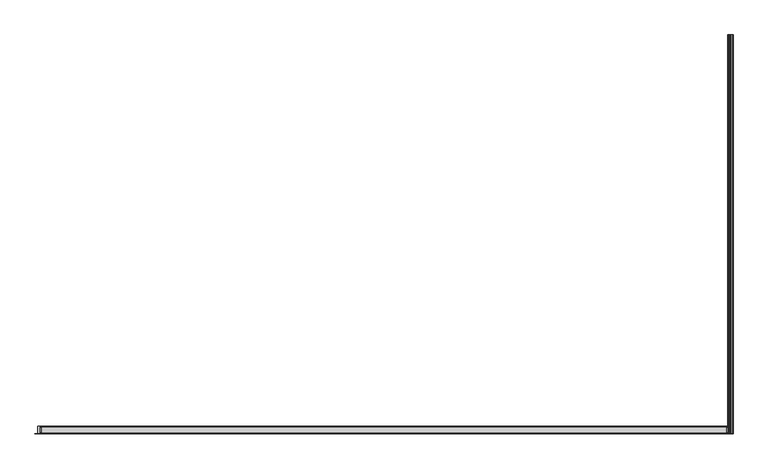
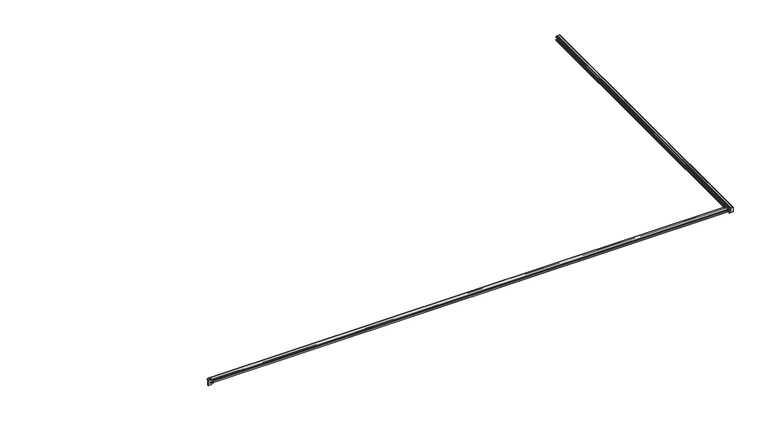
"""IFC4 building model written with IfcOpenShell, lengths in millimetres: proxy geometry, ZIP135 + 4 meter bred : ZIP135 + 4 meter bred."""

from ifc_helpers import new_model, si_unit, point, frame, frame_2d, origin, place, context, project, spatial, polyline, circle_curve, trimmed, segment, composite_curve, outline, extrude, source, transform, mapped, element, save
from ifc_brep_helpers import plane_surface, cylinder_surface, revolved_surface, advanced_brep


def generic_models_5faf2f5d(model_context):
    return source(origin(), model_context, "Body", "SolidModel", [
        extrude(outline(polyline([(2478.0, 0.0), (2463.0, 0.0), (2463.0, 55.2300184), (2478.0, 55.2300184), (2478.0, 0.0)])), frame((0.0, 0.0, 17.2883626), z_axis=(0.0, 0.0, 1.0), x_axis=(1.0, 0.0, 0.0)), (0.0, 0.0, 1.0), 11.0704734),
        extrude(outline(polyline([(-2478.0, 0.0), (-2478.0, 55.2300184), (-2463.0, 55.2300184), (-2463.0, 0.0), (-2478.0, 0.0)])), frame((0.0, 0.0, 17.2883626), z_axis=(0.0, 0.0, 1.0), x_axis=(1.0, 0.0, 0.0)), (0.0, 0.0, 1.0), 11.0704734),
        extrude(outline(composite_curve([segment(trimmed(circle_curve(frame_2d((27.7172667, -112.3261712)), 150.0), [point((8.5247175, 36.4409154))], [point((47.4894252, 36.3649911))], False, "CARTESIAN"), True, "CONTINUOUS"), segment(polyline([(47.4894252, 36.3649911), (52.690799, 33.4461938)]), True, "CONTINUOUS"), segment(trimmed(circle_curve(frame_2d((50.7333087, 29.9578945)), 4.0), [point((52.690799, 33.4461938))], [point((54.6573134, 30.7339018))], False, "CARTESIAN"), True, "CONTINUOUS"), segment(trimmed(circle_curve(frame_2d((15.4172667, 22.9738288)), 40.0), [point((54.6573134, 30.7339018))], [point((55.4172667, 22.9738288))], False, "CARTESIAN"), True, "CONTINUOUS"), segment(trimmed(circle_curve(frame_2d((15.4172667, 22.9738288)), 40.0), [point((55.4172667, 22.9738288))], [point((54.6573134, 15.2137557))], False, "CARTESIAN"), True, "CONTINUOUS"), segment(trimmed(circle_curve(frame_2d((50.7333087, 15.989763)), 4.0), [point((54.6573134, 15.2137557))], [point((52.690799, 12.5014637))], False, "CARTESIAN"), True, "CONTINUOUS"), segment(polyline([(52.690799, 12.5014637), (47.4894252, 9.5826664)]), True, "CONTINUOUS"), segment(trimmed(circle_curve(frame_2d((27.7172667, 158.2738288)), 150.0), [point((47.4894252, 9.5826664))], [point((7.9451082, 9.5826664))], False, "CARTESIAN"), True, "CONTINUOUS"), segment(polyline([(7.9451082, 9.5826664), (2.7437344, 12.5014637)]), True, "CONTINUOUS"), segment(trimmed(circle_curve(frame_2d((4.7012246, 15.989763)), 4.0), [point((2.7437344, 12.5014637))], [point((0.77722, 15.2137557))], False, "CARTESIAN"), True, "CONTINUOUS"), segment(trimmed(circle_curve(frame_2d((40.0172667, 22.9738288)), 40.0), [point((0.77722, 15.2137557))], [point((0.77722, 30.7339018))], False, "CARTESIAN"), True, "CONTINUOUS"), segment(trimmed(circle_curve(frame_2d((4.7012246, 29.9578945)), 4.0), [point((0.77722, 30.7339018))], [point((2.7437344, 33.4461938))], False, "CARTESIAN"), True, "CONTINUOUS"), segment(polyline([(2.7437344, 33.4461938), (7.4404509, 36.0817981)]), True, "CONTINUOUS"), segment(trimmed(circle_curve(frame_2d((8.9085685, 33.4655736)), 3.0), [point((7.4404509, 36.0817981))], [point((8.5247175, 36.4409154))], False, "CARTESIAN"), True, "CONTINUOUS")], self_intersect=False)), frame((2456.0, 0.0, 0.0), z_axis=(1.0, 0.0, 0.0), x_axis=(0.0, 1.0, 0.0)), (0.0, 0.0, 1.0), 7.0),
        extrude(outline(composite_curve([segment(trimmed(circle_curve(frame_2d((27.7172667, -112.3261712)), 150.0), [point((8.5247175, 36.4409154))], [point((47.4894252, 36.3649911))], False, "CARTESIAN"), True, "CONTINUOUS"), segment(polyline([(47.4894252, 36.3649911), (52.690799, 33.4461938)]), True, "CONTINUOUS"), segment(trimmed(circle_curve(frame_2d((50.7333087, 29.9578945)), 4.0), [point((52.690799, 33.4461938))], [point((54.6573134, 30.7339018))], False, "CARTESIAN"), True, "CONTINUOUS"), segment(trimmed(circle_curve(frame_2d((15.4172667, 22.9738288)), 40.0), [point((54.6573134, 30.7339018))], [point((55.4172667, 22.9738288))], False, "CARTESIAN"), True, "CONTINUOUS"), segment(trimmed(circle_curve(frame_2d((15.4172667, 22.9738288)), 40.0), [point((55.4172667, 22.9738288))], [point((54.6573134, 15.2137557))], False, "CARTESIAN"), True, "CONTINUOUS"), segment(trimmed(circle_curve(frame_2d((50.7333087, 15.989763)), 4.0), [point((54.6573134, 15.2137557))], [point((52.690799, 12.5014637))], False, "CARTESIAN"), True, "CONTINUOUS"), segment(polyline([(52.690799, 12.5014637), (47.4894252, 9.5826664)]), True, "CONTINUOUS"), segment(trimmed(circle_curve(frame_2d((27.7172667, 158.2738288)), 150.0), [point((47.4894252, 9.5826664))], [point((7.9451082, 9.5826664))], False, "CARTESIAN"), True, "CONTINUOUS"), segment(polyline([(7.9451082, 9.5826664), (2.7437344, 12.5014637)]), True, "CONTINUOUS"), segment(trimmed(circle_curve(frame_2d((4.7012246, 15.989763)), 4.0), [point((2.7437344, 12.5014637))], [point((0.77722, 15.2137557))], False, "CARTESIAN"), True, "CONTINUOUS"), segment(trimmed(circle_curve(frame_2d((40.0172667, 22.9738288)), 40.0), [point((0.77722, 15.2137557))], [point((0.77722, 30.7339018))], False, "CARTESIAN"), True, "CONTINUOUS"), segment(trimmed(circle_curve(frame_2d((4.7012246, 29.9578945)), 4.0), [point((0.77722, 30.7339018))], [point((2.7437344, 33.4461938))], False, "CARTESIAN"), True, "CONTINUOUS"), segment(polyline([(2.7437344, 33.4461938), (7.4404509, 36.0817981)]), True, "CONTINUOUS"), segment(trimmed(circle_curve(frame_2d((8.9085685, 33.4655736)), 3.0), [point((7.4404509, 36.0817981))], [point((8.5247175, 36.4409154))], False, "CARTESIAN"), True, "CONTINUOUS")], self_intersect=False)), frame((-2463.0, 0.0, 0.0), z_axis=(1.0, 0.0, 0.0), x_axis=(0.0, 1.0, 0.0)), (0.0, 0.0, 1.0), 7.0),
        extrude(outline(composite_curve([segment(trimmed(circle_curve(frame_2d((46.5259648, 33.4655736)), 3.0), [point((46.9098158, 36.4409154))], [point((47.9940825, 36.0817981))], False, "CARTESIAN"), True, "CONTINUOUS"), segment(polyline([(47.9940825, 36.0817981), (52.690799, 33.4461938)]), True, "CONTINUOUS"), segment(trimmed(circle_curve(frame_2d((50.7333087, 29.9578945)), 4.0), [point((52.690799, 33.4461938))], [point((54.6573134, 30.7339018))], False, "CARTESIAN"), True, "CONTINUOUS"), segment(trimmed(circle_curve(frame_2d((15.4172667, 22.9738288)), 40.0), [point((54.6573134, 30.7339018))], [point((55.1898026, 27.233569))], False, "CARTESIAN"), True, "CONTINUOUS"), segment(trimmed(circle_curve(frame_2d((53.6983325, 27.0738288)), 1.5), [point((55.1898026, 27.233569))], [point((53.6983325, 25.5738288))], False, "CARTESIAN"), True, "CONTINUOUS"), segment(polyline([(53.6983325, 25.5738288), (51.763915, 25.5738288)]), True, "CONTINUOUS"), segment(trimmed(circle_curve(frame_2d((46.9172667, 22.9738288)), 5.5), [point((51.763915, 25.5738288))], [point((51.763915, 20.3738288))], True, "CARTESIAN"), True, "CONTINUOUS"), segment(polyline([(51.763915, 20.3738288), (53.6983325, 20.3738288)]), True, "CONTINUOUS"), segment(trimmed(circle_curve(frame_2d((53.6983325, 18.8738288)), 1.5), [point((53.6983325, 20.3738288))], [point((55.1898026, 18.7140885))], False, "CARTESIAN"), True, "CONTINUOUS"), segment(trimmed(circle_curve(frame_2d((15.4172667, 22.9738288)), 40.0), [point((55.1898026, 18.7140885))], [point((54.6573134, 15.2137557))], False, "CARTESIAN"), True, "CONTINUOUS"), segment(trimmed(circle_curve(frame_2d((50.7333087, 15.989763)), 4.0), [point((54.6573134, 15.2137557))], [point((52.690799, 12.5014637))], False, "CARTESIAN"), True, "CONTINUOUS"), segment(polyline([(52.690799, 12.5014637), (47.4894252, 9.5826664)]), True, "CONTINUOUS"), segment(trimmed(circle_curve(frame_2d((27.7172667, 158.2738288)), 150.0), [point((47.4894252, 9.5826664))], [point((8.5247175, 9.5067421))], False, "CARTESIAN"), True, "CONTINUOUS"), segment(trimmed(circle_curve(frame_2d((8.9085685, 12.4820839)), 3.0), [point((8.5247175, 9.5067421))], [point((7.4404509, 9.8658594))], False, "CARTESIAN"), True, "CONTINUOUS"), segment(polyline([(7.4404509, 9.8658594), (2.7437344, 12.5014637)]), True, "CONTINUOUS"), segment(trimmed(circle_curve(frame_2d((4.7012246, 15.989763)), 4.0), [point((2.7437344, 12.5014637))], [point((0.77722, 15.2137557))], False, "CARTESIAN"), True, "CONTINUOUS"), segment(trimmed(circle_curve(frame_2d((40.0172667, 22.9738288)), 40.0), [point((0.77722, 15.2137557))], [point((0.77722, 30.7339018))], False, "CARTESIAN"), True, "CONTINUOUS"), segment(trimmed(circle_curve(frame_2d((4.7012246, 29.9578945)), 4.0), [point((0.77722, 30.7339018))], [point((2.7437344, 33.4461938))], False, "CARTESIAN"), True, "CONTINUOUS"), segment(polyline([(2.7437344, 33.4461938), (7.4404509, 36.0817981)]), True, "CONTINUOUS"), segment(trimmed(circle_curve(frame_2d((8.9085685, 33.4655736)), 3.0), [point((7.4404509, 36.0817981))], [point((8.5247175, 36.4409154))], False, "CARTESIAN"), True, "CONTINUOUS"), segment(trimmed(circle_curve(frame_2d((27.7172667, -112.3261712)), 150.0), [point((8.5247175, 36.4409154))], [point((46.9098158, 36.4409154))], False, "CARTESIAN"), True, "CONTINUOUS")], self_intersect=False)), frame((-2456.0, 0.0, 0.0), z_axis=(1.0, 0.0, 0.0), x_axis=(0.0, 1.0, 0.0)), (0.0, 0.0, 1.0), 4912.0),
        extrude(outline(composite_curve([segment(trimmed(circle_curve(frame_2d((2.0, 2498.0)), 2.0), [point((0.0, 2498.0))], [point((2.0, 2500.0))], False, "CARTESIAN"), True, "CONTINUOUS"), segment(polyline([(2.0, 2500.0), (47.953017, 2500.0)]), True, "CONTINUOUS"), segment(trimmed(circle_curve(frame_2d((-251.2154984, 2477.6796188)), 300.0), [point((47.953017, 2500.0))], [point((48.5438844, 2465.6666067))], False, "CARTESIAN"), True, "CONTINUOUS"), segment(trimmed(circle_curve(frame_2d((46.5454885, 2465.7466935)), 2.0), [point((48.5438844, 2465.6666067))], [point((46.7031883, 2463.7529205))], False, "CARTESIAN"), True, "CONTINUOUS"), segment(trimmed(circle_curve(frame_2d((30.1678714, 2672.80625)), 209.70625), [point((46.7031883, 2463.7529205))], [point((20.9005655, 2463.3048697))], False, "CARTESIAN"), True, "CONTINUOUS"), segment(trimmed(circle_curve(frame_2d((11.65, 2547.8)), 85.0), [point((20.9005655, 2463.3048697))], [point((1.7674699, 2463.3764512))], False, "CARTESIAN"), True, "CONTINUOUS"), segment(trimmed(circle_curve(frame_2d((2.0, 2465.3628876)), 2.0), [point((1.7674699, 2463.3764512))], [point((0.0, 2465.3628876))], False, "CARTESIAN"), True, "CONTINUOUS"), segment(polyline([(0.0, 2465.3628876), (0.0, 2498.0)]), True, "CONTINUOUS")], self_intersect=False)), frame((0.0, 0.0, 0.0), z_axis=(0.0, 1.0, 0.0), x_axis=(0.0, 0.0, 1.0)), (0.0, 0.0, 1.0), 2.5),
        advanced_brep(
        [(2472.6, 2.5, 31.4678714), (2469.3, 2.5, 31.4678714), (2468.8, 2.5, 31.9678714), (2468.8, 2.5, 37.8678714), (2478.9, 2.5, 37.8678714), (2479.3769696, 2.5, 38.5178714), (2478.9, 2.5, 39.1678714), (2469.3, 2.5, 39.1678714), (2468.8, 2.5, 39.6678714), (2468.8, 2.5, 43.1361571), (2468.8, 2.5, 46.5762226), (2471.3890908, 2.5, 47.418256), (2477.9003699, 2.5, 47.4844201), (2478.3999988, 2.5, 46.9856568), (2479.1649596, 2.5, 46.5616328), (2480.6187174, 2.5, 47.4700414), (2498.5, 2.5, 46.7579933), (2498.5, 2.5, 45.3433716), (2499.8, 2.5, 45.9678714), (2499.8, 2.5, 47.0376315), (2498.8706367, 2.5, 48.0351336), (2465.6666067, 2.5, 48.5438844), (2463.7529205, 2.5, 46.7031883), (2463.1024072, 2.5, 31.1726628), (2464.1023957, 2.5, 30.1678714), (2472.6, 2.5, 30.1678714), (2473.0769696, 2.5, 30.8178714), (2472.6, 2857.0, 31.4678714), (2473.0769696, 2857.0, 30.8178714), (2472.6, 2857.0, 30.1678714), (2464.1023957, 2857.0, 30.1678714), (2463.1024072, 2857.0, 31.1726628), (2463.7529205, 2857.0, 46.7031883), (2465.6666067, 2857.0, 48.5438844), (2498.8706367, 2857.0, 48.0351336), (2499.8, 2857.0, 47.0376315), (2499.8, 2857.0, 45.9678714), (2498.5, 2857.0, 45.3433716), (2498.5, 2857.0, 46.7579933), (2480.6187174, 2857.0, 47.4700414), (2479.1649596, 2857.0, 46.5616328), (2478.4, 2857.0, 46.9856568), (2477.9003699, 2857.0, 47.4844201), (2471.3890908, 2857.0, 47.418256), (2468.8, 2857.0, 46.5762226), (2468.8, 2857.0, 43.1361571), (2468.8, 2857.0, 39.6678714), (2469.3, 2857.0, 39.1678714), (2478.9, 2857.0, 39.1678714), (2479.3769696, 2857.0, 38.5178714), (2478.9, 2857.0, 37.8678714), (2468.8, 2857.0, 37.8678714), (2468.8, 2857.0, 31.9678714), (2469.3, 2857.0, 31.4678714)],
        [
            (0, 1),
            (1, 2, circle_curve(frame((2469.3, 2.5, 31.9678714), z_axis=(0.0, 1.0, 0.0), x_axis=(-1.0, 0.0, 0.0)), 0.5)),
            (2, 3),
            (3, 4),
            (4, 5, circle_curve(frame((2478.9, 2.5, 38.3678714), z_axis=(0.0, -1.0, 0.0), x_axis=(-1.0, 0.0, 0.0)), 0.5)),
            (5, 6, circle_curve(frame((2478.9, 2.5, 38.6678714), z_axis=(0.0, -1.0, 0.0), x_axis=(-1.0, 0.0, 0.0)), 0.5)),
            (6, 7),
            (7, 8, circle_curve(frame((2469.3, 2.5, 39.6678714), z_axis=(0.0, 1.0, 0.0), x_axis=(-1.0, 0.0, 0.0)), 0.5)),
            (8, 9),
            (9, 10),
            (10, 11, circle_curve(frame((2469.6, 2.5, 48.5178714), z_axis=(0.0, -1.0, 0.0), x_axis=(-1.0, 0.0, 0.0)), 2.1)),
            (11, 12, circle_curve(frame((2477.6796188, 2.5, -251.2154984), z_axis=(0.0, 1.0, 0.0), x_axis=(-1.0, 0.0, 0.0)), 298.7)),
            (12, 13, circle_curve(frame((2477.9000004, 2.5, 46.9844202), z_axis=(0.0, 1.0, 0.0), x_axis=(-1.0, 0.0, 0.0)), 0.5)),
            (13, 14, circle_curve(frame((2478.9, 2.5, 46.9856568), z_axis=(0.0, -1.0, 0.0), x_axis=(-1.0, 0.0, 0.0)), 0.5)),
            (14, 15),
            (15, 16, circle_curve(frame((2477.6796188, 2.5, -251.2154984), z_axis=(0.0, 1.0, 0.0), x_axis=(-1.0, 0.0, 0.0)), 298.7)),
            (16, 17),
            (17, 18, circle_curve(frame((2499.0, 2.5, 45.9678714), z_axis=(0.0, -1.0, 0.0), x_axis=(-1.0, 0.0, 0.0)), 0.8)),
            (18, 19),
            (19, 20, circle_curve(frame((2498.8, 2.5, 47.0376315), z_axis=(0.0, -1.0, 0.0), x_axis=(-1.0, 0.0, 0.0)), 1.0)),
            (20, 21, circle_curve(frame((2477.6796188, 2.5, -251.2154984), z_axis=(0.0, -1.0, 0.0), x_axis=(-1.0, 0.0, 0.0)), 300.0)),
            (21, 22, circle_curve(frame((2465.7466935, 2.5, 46.5454885), z_axis=(0.0, -1.0, 0.0), x_axis=(-1.0, 0.0, 0.0)), 2.0)),
            (22, 23, circle_curve(frame((2672.80625, 2.5, 30.1678714), z_axis=(0.0, -1.0, 0.0), x_axis=(-1.0, 0.0, 0.0)), 209.70625)),
            (23, 24, circle_curve(frame((2464.1023957, 2.5, 31.1678714), z_axis=(0.0, -1.0, 0.0), x_axis=(-1.0, 0.0, 0.0)), 1.0)),
            (24, 25),
            (25, 26, circle_curve(frame((2472.6, 2.5, 30.6678714), z_axis=(0.0, -1.0, 0.0), x_axis=(-1.0, 0.0, 0.0)), 0.5)),
            (26, 0, circle_curve(frame((2472.6, 2.5, 30.9678714), z_axis=(0.0, -1.0, 0.0), x_axis=(-1.0, 0.0, 0.0)), 0.5)),
            (27, 28, circle_curve(frame((2472.6, 2857.0, 30.9678714), z_axis=(0.0, 1.0, 0.0), x_axis=(-1.0, 0.0, 0.0)), 0.5)),
            (28, 29, circle_curve(frame((2472.6, 2857.0, 30.6678714), z_axis=(0.0, 1.0, 0.0), x_axis=(-1.0, 0.0, 0.0)), 0.5)),
            (29, 30),
            (30, 31, circle_curve(frame((2464.1023957, 2857.0, 31.1678714), z_axis=(0.0, 1.0, 0.0), x_axis=(-1.0, 0.0, 0.0)), 1.0)),
            (31, 32, circle_curve(frame((2672.80625, 2857.0, 30.1678714), z_axis=(0.0, 1.0, 0.0), x_axis=(-1.0, 0.0, 0.0)), 209.70625)),
            (32, 33, circle_curve(frame((2465.7466935, 2857.0, 46.5454885), z_axis=(0.0, 1.0, 0.0), x_axis=(-1.0, 0.0, 0.0)), 2.0)),
            (33, 34, circle_curve(frame((2477.6796188, 2857.0, -251.2154984), z_axis=(0.0, 1.0, 0.0), x_axis=(-1.0, 0.0, 0.0)), 300.0)),
            (34, 35, circle_curve(frame((2498.8, 2857.0, 47.0376315), z_axis=(0.0, 1.0, 0.0), x_axis=(-1.0, 0.0, 0.0)), 1.0)),
            (35, 36),
            (36, 37, circle_curve(frame((2499.0, 2857.0, 45.9678714), z_axis=(0.0, 1.0, 0.0), x_axis=(-1.0, 0.0, 0.0)), 0.8)),
            (37, 38),
            (38, 39, circle_curve(frame((2477.6796188, 2857.0, -251.2154984), z_axis=(0.0, -1.0, 0.0), x_axis=(-1.0, 0.0, 0.0)), 298.7)),
            (39, 40),
            (40, 41, circle_curve(frame((2478.9, 2857.0, 46.9856568), z_axis=(0.0, 1.0, 0.0), x_axis=(-1.0, 0.0, 0.0)), 0.5)),
            (41, 42, circle_curve(frame((2477.9000004, 2857.0, 46.9844202), z_axis=(0.0, -1.0, 0.0), x_axis=(-1.0, 0.0, 0.0)), 0.5)),
            (42, 43, circle_curve(frame((2477.6796188, 2857.0, -251.2154984), z_axis=(0.0, -1.0, 0.0), x_axis=(-1.0, 0.0, 0.0)), 298.7)),
            (43, 44, circle_curve(frame((2469.6, 2857.0, 48.5178714), z_axis=(0.0, 1.0, 0.0), x_axis=(-1.0, 0.0, 0.0)), 2.1)),
            (44, 45),
            (45, 46),
            (46, 47, circle_curve(frame((2469.3, 2857.0, 39.6678714), z_axis=(0.0, -1.0, 0.0), x_axis=(-1.0, 0.0, 0.0)), 0.5)),
            (47, 48),
            (48, 49, circle_curve(frame((2478.9, 2857.0, 38.6678714), z_axis=(0.0, 1.0, 0.0), x_axis=(-1.0, 0.0, 0.0)), 0.5)),
            (49, 50, circle_curve(frame((2478.9, 2857.0, 38.3678714), z_axis=(0.0, 1.0, 0.0), x_axis=(-1.0, 0.0, 0.0)), 0.5)),
            (50, 51),
            (51, 52),
            (52, 53, circle_curve(frame((2469.3, 2857.0, 31.9678714), z_axis=(0.0, -1.0, 0.0), x_axis=(-1.0, 0.0, 0.0)), 0.5)),
            (53, 27),
            (0, 27),
            (53, 1),
            (52, 2),
            (51, 3),
            (50, 4),
            (49, 5),
            (48, 6),
            (47, 7),
            (46, 8),
            (45, 9),
            (44, 10),
            (43, 11),
            (42, 12),
            (41, 13),
            (40, 14),
            (39, 15),
            (38, 16),
            (37, 17),
            (36, 18),
            (35, 19),
            (34, 20),
            (33, 21),
            (32, 22),
            (31, 23),
            (30, 24),
            (29, 25),
            (28, 26),
        ],
        [
            plane_surface(frame((2472.1, 2.5, 30.9678714), z_axis=(0.0, -1.0, 0.0), x_axis=(0.0, 0.0, 1.0))),
            plane_surface(frame((2472.1, 2857.0, 30.9678714), z_axis=(0.0, 1.0, 0.0), x_axis=(0.0, 0.0, -1.0))),
            plane_surface(frame((2469.3, 2.5, 31.4678714), z_axis=(0.0, 0.0, 1.0), x_axis=(0.0, 1.0, 0.0))),
            revolved_surface(polyline([(2468.8, 2857.0, 31.9678714), (2468.8, 2.5, 31.9678714)]), (2469.3, 2857.0, 31.9678714), (0.0, 1.0, 0.0)),
            plane_surface(frame((2468.8, 2.5, 37.8678714), z_axis=(1.0, 0.0, 0.0), x_axis=(0.0, 1.0, 0.0))),
            plane_surface(frame((2478.9, 2.5, 37.8678714), z_axis=(0.0, 0.0, -1.0), x_axis=(0.0, 1.0, 0.0))),
            cylinder_surface(frame((2478.9, 2857.0, 38.3678714), z_axis=(0.0, -1.0, 0.0), x_axis=(-1.0, 0.0, 0.0)), 0.5),
            cylinder_surface(frame((2478.9, 2857.0, 38.6678714), z_axis=(0.0, -1.0, 0.0), x_axis=(-1.0, 0.0, 0.0)), 0.5),
            plane_surface(frame((2469.3, 2.5, 39.1678714), z_axis=(0.0, 0.0, 1.0), x_axis=(0.0, 1.0, 0.0))),
            revolved_surface(polyline([(2468.8, 2857.0, 39.6678714), (2468.8, 2.5, 39.6678714)]), (2469.3, 2857.0, 39.6678714), (0.0, 1.0, 0.0)),
            plane_surface(frame((2468.8, 2.5, 43.1361571), z_axis=(1.0, 0.0, 0.0), x_axis=(0.0, 1.0, 0.0))),
            plane_surface(frame((2468.8, 2.5, 46.5762226), z_axis=(1.0, 0.0, 0.0), x_axis=(0.0, 1.0, 0.0))),
            cylinder_surface(frame((2469.6, 2857.0, 48.5178714), z_axis=(0.0, -1.0, 0.0), x_axis=(-1.0, 0.0, 0.0)), 2.1),
            revolved_surface(polyline([(2178.9796188, 2857.0, -251.2154984), (2178.9796188, 2.5, -251.2154984)]), (2477.6796188, 2857.0, -251.2154984), (0.0, 1.0, 0.0)),
            revolved_surface(polyline([(2477.4000004, 2857.0, 46.9844202), (2477.4000004, 2.5, 46.9844202)]), (2477.9000004, 2857.0, 46.9844202), (0.0, 1.0, 0.0)),
            cylinder_surface(frame((2478.9, 2857.0, 46.9856568), z_axis=(0.0, -1.0, 0.0), x_axis=(-1.0, 0.0, 0.0)), 0.5),
            plane_surface(frame((2480.6187174, 2.5, 47.4700414), z_axis=(0.529919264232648, 0.0, -0.848048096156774), x_axis=(0.0, 1.0, 0.0))),
            plane_surface(frame((2498.5, 2.5, 45.3433716), z_axis=(-1.0, 0.0, 0.0), x_axis=(0.0, 1.0, 0.0))),
            cylinder_surface(frame((2499.0, 2857.0, 45.9678714), z_axis=(0.0, -1.0, 0.0), x_axis=(-1.0, 0.0, 0.0)), 0.8),
            plane_surface(frame((2499.8, 2.5, 47.0376315), z_axis=(1.0, 0.0, 0.0), x_axis=(0.0, 1.0, 0.0))),
            cylinder_surface(frame((2498.8, 2857.0, 47.0376315), z_axis=(0.0, -1.0, 0.0), x_axis=(-1.0, 0.0, 0.0)), 1.0),
            cylinder_surface(frame((2477.6796188, 2857.0, -251.2154984), z_axis=(0.0, -1.0, 0.0), x_axis=(-1.0, 0.0, 0.0)), 300.0),
            cylinder_surface(frame((2465.7466935, 2857.0, 46.5454885), z_axis=(0.0, -1.0, 0.0), x_axis=(-1.0, 0.0, 0.0)), 2.0),
            cylinder_surface(frame((2672.80625, 2857.0, 30.1678714), z_axis=(0.0, -1.0, 0.0), x_axis=(-1.0, 0.0, 0.0)), 209.70625),
            cylinder_surface(frame((2464.1023957, 2857.0, 31.1678714), z_axis=(0.0, -1.0, 0.0), x_axis=(-1.0, 0.0, 0.0)), 1.0),
            plane_surface(frame((2472.6, 2.5, 30.1678714), z_axis=(0.0, 0.0, -1.0), x_axis=(0.0, 1.0, 0.0))),
            cylinder_surface(frame((2472.6, 2857.0, 30.6678714), z_axis=(0.0, -1.0, 0.0), x_axis=(-1.0, 0.0, 0.0)), 0.5),
            cylinder_surface(frame((2472.6, 2857.0, 30.9678714), z_axis=(0.0, -1.0, 0.0), x_axis=(-1.0, 0.0, 0.0)), 0.5),
        ],
        [
            (0, [[1, 2, 3, 4, 5, 6, 7, 8, 9, 10, 11, 12, 13, 14, 15, 16, 17, 18, 19, 20, 21, 22, 23, 24, 25, 26, 27]]),
            (1, [[28, 29, 30, 31, 32, 33, 34, 35, 36, 37, 38, 39, 40, 41, 42, 43, 44, 45, 46, 47, 48, 49, 50, 51, 52, 53, 54]]),
            (2, [[55, -54, 56, -1]]),
            (3, [[-56, -53, 57, -2]]),
            (4, [[-57, -52, 58, -3]]),
            (5, [[-58, -51, 59, -4]]),
            (6, [[-59, -50, 60, -5]]),
            (7, [[-60, -49, 61, -6]]),
            (8, [[-61, -48, 62, -7]]),
            (9, [[-62, -47, 63, -8]]),
            (10, [[-63, -46, 64, -9]]),
            (11, [[-64, -45, 65, -10]]),
            (12, [[-65, -44, 66, -11]]),
            (13, [[-66, -43, 67, -12]]),
            (14, [[-67, -42, 68, -13]]),
            (15, [[-68, -41, 69, -14]]),
            (16, [[-69, -40, 70, -15]]),
            (13, [[-70, -39, 71, -16]]),
            (17, [[-71, -38, 72, -17]]),
            (18, [[-72, -37, 73, -18]]),
            (19, [[-73, -36, 74, -19]]),
            (20, [[-74, -35, 75, -20]]),
            (21, [[-75, -34, 76, -21]]),
            (22, [[-76, -33, 77, -22]]),
            (23, [[-77, -32, 78, -23]]),
            (24, [[-78, -31, 79, -24]]),
            (25, [[-79, -30, 80, -25]]),
            (26, [[-80, -29, 81, -26]]),
            (27, [[-81, -28, -55, -27]]),
        ],
    ),
        advanced_brep(
        [(2462.8295553, 2.5, 13.8913237), (2463.3764512, 2.5, 1.7674699), (2465.3628876, 2.5, 0.0), (2472.05, 2.5, 0.0), (2472.05, 2.5, 1.5), (2468.5, 2.5, 1.5), (2468.5, 2.5, 4.8), (2469.5, 2.5, 5.8), (2483.1, 2.5, 5.8), (2484.1, 2.5, 4.8), (2484.1, 2.5, 2.0), (2483.6, 2.5, 1.5), (2480.55, 2.5, 1.5), (2480.55, 2.5, 0.0), (2491.3611718, 2.5, 0.0), (2498.0, 2.5, 0.0), (2500.0, 2.5, 2.0), (2500.0, 2.5, 45.05), (2497.6, 2.5, 45.05), (2497.6, 2.5, 46.75), (2496.0, 2.5, 44.35), (2496.0, 2.5, 43.35), (2496.5, 2.5, 42.85), (2498.1, 2.5, 42.85), (2498.6, 2.5, 42.35), (2498.6, 2.5, 29.6), (2498.1, 2.5, 29.1), (2490.3934914, 2.5, 29.1), (2485.2, 2.5, 29.1), (2485.2, 2.5, 37.0), (2484.479504, 2.5, 38.5371628), (2484.0348837, 2.5, 39.472153), (2481.757213, 2.5, 39.4801617), (2481.1622989, 2.5, 40.0872673), (2481.1730561, 2.5, 41.1478729), (2481.7801617, 2.5, 41.742787), (2484.0348837, 2.5, 41.727847), (2484.8151163, 2.5, 42.5032419), (2481.803125, 2.5, 43.0671573), (2481.1055598, 2.5, 43.5983945), (2479.1, 2.5, 45.9), (2468.8101021, 2.5, 45.9), (2469.3, 2.5, 44.7), (2478.6, 2.5, 44.7), (2479.6, 2.5, 43.7), (2479.6, 2.5, 41.5), (2478.6, 2.5, 40.5), (2468.8101021, 2.5, 40.5), (2469.3, 2.5, 39.3), (2479.724617, 2.5, 39.3), (2479.724617, 2.5, 38.3794826), (2480.7, 2.5, 37.6), (2482.8, 2.5, 37.6), (2483.8, 2.5, 36.6), (2483.8, 2.5, 20.6143806), (2483.8, 2.5, 7.2), (2469.5, 2.5, 7.2), (2468.5, 2.5, 8.2), (2468.5, 2.5, 12.85), (2469.0, 2.5, 13.35), (2472.3, 2.5, 13.35), (2472.7769696, 2.5, 14.0), (2472.3, 2.5, 14.65), (2463.8, 2.5, 14.65), (2462.8295553, 2857.0, 13.8913237), (2463.8, 2857.0, 14.65), (2472.3, 2857.0, 14.65), (2472.7769696, 2857.0, 14.0), (2472.3, 2857.0, 13.35), (2469.0, 2857.0, 13.35), (2468.5, 2857.0, 12.85), (2468.5, 2857.0, 8.2), (2469.5, 2857.0, 7.2), (2483.8, 2857.0, 7.2), (2483.8, 2857.0, 20.6143806), (2483.8, 2857.0, 36.6), (2482.8, 2857.0, 37.6), (2480.7, 2857.0, 37.6), (2479.724617, 2857.0, 38.3794826), (2479.724617, 2857.0, 39.3), (2469.3, 2857.0, 39.3), (2468.8101021, 2857.0, 40.5), (2478.6, 2857.0, 40.5), (2479.6, 2857.0, 41.5), (2479.6, 2857.0, 43.7), (2478.6, 2857.0, 44.7), (2469.3, 2857.0, 44.7), (2468.8101021, 2857.0, 45.9), (2479.1, 2857.0, 45.9), (2481.077761, 2857.0, 43.6025751), (2481.803125, 2857.0, 43.0671573), (2484.8151163, 2857.0, 42.5032419), (2484.0348837, 2857.0, 41.727847), (2481.7801617, 2857.0, 41.742787), (2481.1730561, 2857.0, 41.1478729), (2481.1622989, 2857.0, 40.0872673), (2481.757213, 2857.0, 39.4801617), (2484.0348837, 2857.0, 39.472153), (2484.479504, 2857.0, 38.5371628), (2485.2, 2857.0, 37.0), (2485.2, 2857.0, 29.1), (2490.3934914, 2857.0, 29.1), (2498.1, 2857.0, 29.1), (2498.6, 2857.0, 29.6), (2498.6, 2857.0, 42.35), (2498.1, 2857.0, 42.85), (2496.5, 2857.0, 42.85), (2496.0, 2857.0, 43.35), (2496.0, 2857.0, 44.35), (2497.6, 2857.0, 46.75), (2497.6, 2857.0, 45.05), (2500.0, 2857.0, 45.05), (2500.0, 2857.0, 2.0), (2498.0, 2857.0, 0.0), (2491.3611718, 2857.0, 0.0), (2480.55, 2857.0, 0.0), (2480.55, 2857.0, 1.5), (2483.6, 2857.0, 1.5), (2484.1, 2857.0, 2.0), (2484.1, 2857.0, 4.8), (2483.1, 2857.0, 5.8), (2469.5, 2857.0, 5.8), (2468.5, 2857.0, 4.8), (2468.5, 2857.0, 1.5), (2472.05, 2857.0, 1.5), (2472.05, 2857.0, 0.0), (2465.3628876, 2857.0, 0.0), (2463.3764512, 2857.0, 1.7674699)],
        [
            (0, 1, circle_curve(frame((2547.8, 2.5, 11.65), z_axis=(0.0, -1.0, 0.0), x_axis=(-1.0, 0.0, 0.0)), 85.0)),
            (1, 2, circle_curve(frame((2465.3628876, 2.5, 2.0), z_axis=(0.0, -1.0, 0.0), x_axis=(-1.0, 0.0, 0.0)), 2.0)),
            (2, 3),
            (3, 4),
            (4, 5),
            (5, 6),
            (6, 7, circle_curve(frame((2469.5, 2.5, 4.8), z_axis=(0.0, 1.0, 0.0), x_axis=(-1.0, 0.0, 0.0)), 1.0)),
            (7, 8),
            (8, 9, circle_curve(frame((2483.1, 2.5, 4.8), z_axis=(0.0, 1.0, 0.0), x_axis=(-1.0, 0.0, 0.0)), 1.0)),
            (9, 10),
            (10, 11, circle_curve(frame((2483.6, 2.5, 2.0), z_axis=(0.0, 1.0, 0.0), x_axis=(-1.0, 0.0, 0.0)), 0.5)),
            (11, 12),
            (12, 13),
            (13, 14),
            (14, 15),
            (15, 16, circle_curve(frame((2498.0, 2.5, 2.0), z_axis=(0.0, -1.0, 0.0), x_axis=(-1.0, 0.0, 0.0)), 2.0)),
            (16, 17),
            (17, 18, circle_curve(frame((2498.8, 2.5, 45.55), z_axis=(0.0, 1.0, 0.0), x_axis=(-1.0, 0.0, 0.0)), 1.3)),
            (18, 19),
            (19, 20),
            (20, 21),
            (21, 22, circle_curve(frame((2496.5, 2.5, 43.35), z_axis=(0.0, -1.0, 0.0), x_axis=(-1.0, 0.0, 0.0)), 0.5)),
            (22, 23),
            (23, 24, circle_curve(frame((2498.1, 2.5, 42.35), z_axis=(0.0, 1.0, 0.0), x_axis=(-1.0, 0.0, 0.0)), 0.5)),
            (24, 25),
            (25, 26, circle_curve(frame((2498.1, 2.5, 29.6), z_axis=(0.0, 1.0, 0.0), x_axis=(-1.0, 0.0, 0.0)), 0.5)),
            (26, 27),
            (27, 28),
            (28, 29),
            (29, 30, circle_curve(frame((2483.2, 2.5, 37.0), z_axis=(0.0, -1.0, 0.0), x_axis=(-1.0, 0.0, 0.0)), 2.0)),
            (30, 31, circle_curve(frame((2484.425, 2.5, 39.0844555), z_axis=(0.0, -1.0, 0.0), x_axis=(-1.0, 0.0, 0.0)), 0.55)),
            (31, 32, circle_curve(frame((2482.9, 2.5, 40.6), z_axis=(0.0, 1.0, 0.0), x_axis=(-1.0, 0.0, 0.0)), 1.6)),
            (32, 33),
            (33, 34, circle_curve(frame((2481.6979803, 2.5, 40.6121915), z_axis=(0.0, 1.0, 0.0), x_axis=(-1.0, 0.0, 0.0)), 0.75)),
            (34, 35),
            (35, 36, circle_curve(frame((2482.9, 2.5, 40.6), z_axis=(0.0, 1.0, 0.0), x_axis=(-1.0, 0.0, 0.0)), 1.6)),
            (36, 37, circle_curve(frame((2484.425, 2.5, 42.1155445), z_axis=(0.0, -1.0, 0.0), x_axis=(-1.0, 0.0, 0.0)), 0.55)),
            (37, 38, circle_curve(frame((2482.9, 2.5, 40.6), z_axis=(0.0, -1.0, 0.0), x_axis=(-1.0, 0.0, 0.0)), 2.7)),
            (38, 39, circle_curve(frame((2481.6, 2.5, 43.5240383), z_axis=(0.0, 1.0, 0.0), x_axis=(-1.0, 0.0, 0.0)), 0.5)),
            (39, 40, circle_curve(frame((2479.1, 2.5, 43.9), z_axis=(0.0, -1.0, 0.0), x_axis=(-1.0, 0.0, 0.0)), 2.0)),
            (40, 41),
            (41, 42, circle_curve(frame((2469.3, 2.5, 45.4), z_axis=(0.0, -1.0, 0.0), x_axis=(-1.0, 0.0, 0.0)), 0.7)),
            (42, 43),
            (43, 44, circle_curve(frame((2478.6, 2.5, 43.7), z_axis=(0.0, 1.0, 0.0), x_axis=(-1.0, 0.0, 0.0)), 1.0)),
            (44, 45),
            (45, 46, circle_curve(frame((2478.6, 2.5, 41.5), z_axis=(0.0, 1.0, 0.0), x_axis=(-1.0, 0.0, 0.0)), 1.0)),
            (46, 47),
            (47, 48, circle_curve(frame((2469.3, 2.5, 40.0), z_axis=(0.0, -1.0, 0.0), x_axis=(-1.0, 0.0, 0.0)), 0.7)),
            (48, 49),
            (49, 50),
            (50, 51, circle_curve(frame((2480.7, 2.5, 38.6), z_axis=(0.0, -1.0, 0.0), x_axis=(-1.0, 0.0, 0.0)), 1.0)),
            (51, 52),
            (52, 53, circle_curve(frame((2482.8, 2.5, 36.6), z_axis=(0.0, 1.0, 0.0), x_axis=(-1.0, 0.0, 0.0)), 1.0)),
            (53, 54),
            (54, 55),
            (55, 56),
            (56, 57, circle_curve(frame((2469.5, 2.5, 8.2), z_axis=(0.0, 1.0, 0.0), x_axis=(-1.0, 0.0, 0.0)), 1.0)),
            (57, 58),
            (58, 59, circle_curve(frame((2469.0, 2.5, 12.85), z_axis=(0.0, 1.0, 0.0), x_axis=(-1.0, 0.0, 0.0)), 0.5)),
            (59, 60),
            (60, 61, circle_curve(frame((2472.3, 2.5, 13.85), z_axis=(0.0, -1.0, 0.0), x_axis=(-1.0, 0.0, 0.0)), 0.5)),
            (61, 62, circle_curve(frame((2472.3, 2.5, 14.15), z_axis=(0.0, -1.0, 0.0), x_axis=(-1.0, 0.0, 0.0)), 0.5)),
            (62, 63),
            (63, 0, circle_curve(frame((2463.8, 2.5, 13.65), z_axis=(0.0, -1.0, 0.0), x_axis=(-1.0, 0.0, 0.0)), 1.0)),
            (64, 65, circle_curve(frame((2463.8, 2857.0, 13.65), z_axis=(0.0, 1.0, 0.0), x_axis=(-1.0, 0.0, 0.0)), 1.0)),
            (65, 66),
            (66, 67, circle_curve(frame((2472.3, 2857.0, 14.15), z_axis=(0.0, 1.0, 0.0), x_axis=(-1.0, 0.0, 0.0)), 0.5)),
            (67, 68, circle_curve(frame((2472.3, 2857.0, 13.85), z_axis=(0.0, 1.0, 0.0), x_axis=(-1.0, 0.0, 0.0)), 0.5)),
            (68, 69),
            (69, 70, circle_curve(frame((2469.0, 2857.0, 12.85), z_axis=(0.0, -1.0, 0.0), x_axis=(-1.0, 0.0, 0.0)), 0.5)),
            (70, 71),
            (71, 72, circle_curve(frame((2469.5, 2857.0, 8.2), z_axis=(0.0, -1.0, 0.0), x_axis=(-1.0, 0.0, 0.0)), 1.0)),
            (72, 73),
            (73, 74),
            (74, 75),
            (75, 76, circle_curve(frame((2482.8, 2857.0, 36.6), z_axis=(0.0, -1.0, 0.0), x_axis=(-1.0, 0.0, 0.0)), 1.0)),
            (76, 77),
            (77, 78, circle_curve(frame((2480.7, 2857.0, 38.6), z_axis=(0.0, 1.0, 0.0), x_axis=(-1.0, 0.0, 0.0)), 1.0)),
            (78, 79),
            (79, 80),
            (80, 81, circle_curve(frame((2469.3, 2857.0, 40.0), z_axis=(0.0, 1.0, 0.0), x_axis=(-1.0, 0.0, 0.0)), 0.7)),
            (81, 82),
            (82, 83, circle_curve(frame((2478.6, 2857.0, 41.5), z_axis=(0.0, -1.0, 0.0), x_axis=(-1.0, 0.0, 0.0)), 1.0)),
            (83, 84),
            (84, 85, circle_curve(frame((2478.6, 2857.0, 43.7), z_axis=(0.0, -1.0, 0.0), x_axis=(-1.0, 0.0, 0.0)), 1.0)),
            (85, 86),
            (86, 87, circle_curve(frame((2469.3, 2857.0, 45.4), z_axis=(0.0, 1.0, 0.0), x_axis=(-1.0, 0.0, 0.0)), 0.7)),
            (87, 88),
            (88, 89, circle_curve(frame((2479.1, 2857.0, 43.9), z_axis=(0.0, 1.0, 0.0), x_axis=(-1.0, 0.0, 0.0)), 2.0)),
            (89, 90, circle_curve(frame((2481.6, 2857.0, 43.5240383), z_axis=(0.0, -1.0, 0.0), x_axis=(-1.0, 0.0, 0.0)), 0.5)),
            (90, 91, circle_curve(frame((2482.9, 2857.0, 40.6), z_axis=(0.0, 1.0, 0.0), x_axis=(-1.0, 0.0, 0.0)), 2.7)),
            (91, 92, circle_curve(frame((2484.425, 2857.0, 42.1155445), z_axis=(0.0, 1.0, 0.0), x_axis=(-1.0, 0.0, 0.0)), 0.55)),
            (92, 93, circle_curve(frame((2482.9, 2857.0, 40.6), z_axis=(0.0, -1.0, 0.0), x_axis=(-1.0, 0.0, 0.0)), 1.6)),
            (93, 94),
            (94, 95, circle_curve(frame((2481.6979803, 2857.0, 40.6121915), z_axis=(0.0, -1.0, 0.0), x_axis=(-1.0, 0.0, 0.0)), 0.75)),
            (95, 96),
            (96, 97, circle_curve(frame((2482.9, 2857.0, 40.6), z_axis=(0.0, -1.0, 0.0), x_axis=(-1.0, 0.0, 0.0)), 1.6)),
            (97, 98, circle_curve(frame((2484.425, 2857.0, 39.0844555), z_axis=(0.0, 1.0, 0.0), x_axis=(-1.0, 0.0, 0.0)), 0.55)),
            (98, 99, circle_curve(frame((2483.2, 2857.0, 37.0), z_axis=(0.0, 1.0, 0.0), x_axis=(-1.0, 0.0, 0.0)), 2.0)),
            (99, 100),
            (100, 101),
            (101, 102),
            (102, 103, circle_curve(frame((2498.1, 2857.0, 29.6), z_axis=(0.0, -1.0, 0.0), x_axis=(-1.0, 0.0, 0.0)), 0.5)),
            (103, 104),
            (104, 105, circle_curve(frame((2498.1, 2857.0, 42.35), z_axis=(0.0, -1.0, 0.0), x_axis=(-1.0, 0.0, 0.0)), 0.5)),
            (105, 106),
            (106, 107, circle_curve(frame((2496.5, 2857.0, 43.35), z_axis=(0.0, 1.0, 0.0), x_axis=(-1.0, 0.0, 0.0)), 0.5)),
            (107, 108),
            (108, 109),
            (109, 110),
            (110, 111, circle_curve(frame((2498.8, 2857.0, 45.55), z_axis=(0.0, -1.0, 0.0), x_axis=(-1.0, 0.0, 0.0)), 1.3)),
            (111, 112),
            (112, 113, circle_curve(frame((2498.0, 2857.0, 2.0), z_axis=(0.0, 1.0, 0.0), x_axis=(-1.0, 0.0, 0.0)), 2.0)),
            (113, 114),
            (114, 115),
            (115, 116),
            (116, 117),
            (117, 118, circle_curve(frame((2483.6, 2857.0, 2.0), z_axis=(0.0, -1.0, 0.0), x_axis=(-1.0, 0.0, 0.0)), 0.5)),
            (118, 119),
            (119, 120, circle_curve(frame((2483.1, 2857.0, 4.8), z_axis=(0.0, -1.0, 0.0), x_axis=(-1.0, 0.0, 0.0)), 1.0)),
            (120, 121),
            (121, 122, circle_curve(frame((2469.5, 2857.0, 4.8), z_axis=(0.0, -1.0, 0.0), x_axis=(-1.0, 0.0, 0.0)), 1.0)),
            (122, 123),
            (123, 124),
            (124, 125),
            (125, 126),
            (126, 127, circle_curve(frame((2465.3628876, 2857.0, 2.0), z_axis=(0.0, 1.0, 0.0), x_axis=(-1.0, 0.0, 0.0)), 2.0)),
            (127, 64, circle_curve(frame((2547.8, 2857.0, 11.65), z_axis=(0.0, 1.0, 0.0), x_axis=(-1.0, 0.0, 0.0)), 85.0)),
            (0, 64),
            (127, 1),
            (126, 2),
            (125, 3),
            (124, 4),
            (123, 5),
            (122, 6),
            (121, 7),
            (120, 8),
            (119, 9),
            (118, 10),
            (117, 11),
            (116, 12),
            (115, 13),
            (114, 14),
            (113, 15),
            (112, 16),
            (111, 17),
            (110, 18),
            (109, 19),
            (108, 20),
            (107, 21),
            (106, 22),
            (105, 23),
            (104, 24),
            (103, 25),
            (102, 26),
            (101, 27),
            (100, 28),
            (99, 29),
            (98, 30),
            (97, 31),
            (96, 32),
            (95, 33),
            (94, 34),
            (93, 35),
            (92, 36),
            (91, 37),
            (90, 38),
            (89, 39),
            (88, 40),
            (87, 41),
            (86, 42),
            (85, 43),
            (84, 44),
            (83, 45),
            (82, 46),
            (81, 47),
            (80, 48),
            (79, 49),
            (78, 50),
            (77, 51),
            (76, 52),
            (75, 53),
            (74, 54),
            (73, 55),
            (72, 56),
            (71, 57),
            (70, 58),
            (69, 59),
            (68, 60),
            (67, 61),
            (66, 62),
            (65, 63),
        ],
        [
            plane_surface(frame((2462.8, 2.5, 13.65), z_axis=(0.0, -1.0, 0.0), x_axis=(0.0, 0.0, 1.0))),
            plane_surface(frame((2462.8, 2857.0, 13.65), z_axis=(0.0, 1.0, 0.0), x_axis=(0.0, 0.0, -1.0))),
            cylinder_surface(frame((2547.8, 2857.0, 11.65), z_axis=(0.0, -1.0, 0.0), x_axis=(-1.0, 0.0, 0.0)), 85.0),
            cylinder_surface(frame((2465.3628876, 2857.0, 2.0), z_axis=(0.0, -1.0, 0.0), x_axis=(-1.0, 0.0, 0.0)), 2.0),
            plane_surface(frame((2472.05, 2.5, 0.0), z_axis=(0.0, 0.0, -1.0), x_axis=(0.0, 1.0, 0.0))),
            plane_surface(frame((2472.05, 2.5, 1.5), z_axis=(1.0, 0.0, 0.0), x_axis=(0.0, 1.0, 0.0))),
            plane_surface(frame((2468.5, 2.5, 1.5), z_axis=(0.0, 0.0, 1.0), x_axis=(0.0, 1.0, 0.0))),
            plane_surface(frame((2468.5, 2.5, 4.8), z_axis=(1.0, 0.0, 0.0), x_axis=(0.0, 1.0, 0.0))),
            revolved_surface(polyline([(2468.5, 2857.0, 4.8), (2468.5, 2.5, 4.8)]), (2469.5, 2857.0, 4.8), (0.0, 1.0, 0.0)),
            plane_surface(frame((2483.1, 2.5, 5.8), z_axis=(0.0, 0.0, -1.0), x_axis=(0.0, 1.0, 0.0))),
            revolved_surface(polyline([(2482.1, 2857.0, 4.8), (2482.1, 2.5, 4.8)]), (2483.1, 2857.0, 4.8), (0.0, 1.0, 0.0)),
            plane_surface(frame((2484.1, 2.5, 2.0), z_axis=(-1.0, 0.0, 0.0), x_axis=(0.0, 1.0, 0.0))),
            revolved_surface(polyline([(2483.1, 2857.0, 2.0), (2483.1, 2.5, 2.0)]), (2483.6, 2857.0, 2.0), (0.0, 1.0, 0.0)),
            plane_surface(frame((2480.55, 2.5, 1.5), z_axis=(0.0, 0.0, 1.0), x_axis=(0.0, 1.0, 0.0))),
            plane_surface(frame((2480.55, 2.5, 0.0), z_axis=(-1.0, 0.0, 0.0), x_axis=(0.0, 1.0, 0.0))),
            plane_surface(frame((2491.3611718, 2.5, 0.0), z_axis=(0.0, 0.0, -1.0), x_axis=(0.0, 1.0, 0.0))),
            plane_surface(frame((2498.0, 2.5, 0.0), z_axis=(0.0, 0.0, -1.0), x_axis=(0.0, 1.0, 0.0))),
            cylinder_surface(frame((2498.0, 2857.0, 2.0), z_axis=(0.0, -1.0, 0.0), x_axis=(-1.0, 0.0, 0.0)), 2.0),
            plane_surface(frame((2500.0, 2.5, 45.05), z_axis=(1.0, 0.0, 0.0), x_axis=(0.0, 1.0, 0.0))),
            revolved_surface(polyline([(2497.5, 2857.0, 45.55), (2497.5, 2.5, 45.55)]), (2498.8, 2857.0, 45.55), (0.0, 1.0, 0.0)),
            plane_surface(frame((2497.6, 2.5, 46.75), z_axis=(1.0, 0.0, 0.0), x_axis=(0.0, 1.0, 0.0))),
            plane_surface(frame((2496.0, 2.5, 44.35), z_axis=(-0.8320502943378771, 0.0, 0.5547001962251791), x_axis=(0.0, 1.0, 0.0))),
            plane_surface(frame((2496.0, 2.5, 43.35), z_axis=(-1.0, 0.0, 0.0), x_axis=(0.0, 1.0, 0.0))),
            cylinder_surface(frame((2496.5, 2857.0, 43.35), z_axis=(0.0, -1.0, 0.0), x_axis=(-1.0, 0.0, 0.0)), 0.5),
            plane_surface(frame((2498.1, 2.5, 42.85), z_axis=(0.0, 0.0, -1.0), x_axis=(0.0, 1.0, 0.0))),
            revolved_surface(polyline([(2497.6, 2857.0, 42.35), (2497.6, 2.5, 42.35)]), (2498.1, 2857.0, 42.35), (0.0, 1.0, 0.0)),
            plane_surface(frame((2498.6, 2.5, 29.6), z_axis=(-1.0, 0.0, 0.0), x_axis=(0.0, 1.0, 0.0))),
            revolved_surface(polyline([(2497.6, 2857.0, 29.6), (2497.6, 2.5, 29.6)]), (2498.1, 2857.0, 29.6), (0.0, 1.0, 0.0)),
            plane_surface(frame((2490.3934914, 2.5, 29.1), z_axis=(0.0, 0.0, 1.0), x_axis=(0.0, 1.0, 0.0))),
            plane_surface(frame((2485.2, 2.5, 29.1), z_axis=(0.0, 0.0, 1.0), x_axis=(0.0, 1.0, 0.0))),
            plane_surface(frame((2485.2, 2.5, 37.0), z_axis=(1.0, 0.0, 0.0), x_axis=(0.0, 1.0, 0.0))),
            cylinder_surface(frame((2483.2, 2857.0, 37.0), z_axis=(0.0, -1.0, 0.0), x_axis=(-1.0, 0.0, 0.0)), 2.0),
            cylinder_surface(frame((2484.425, 2857.0, 39.0844555), z_axis=(0.0, -1.0, 0.0), x_axis=(-1.0, 0.0, 0.0)), 0.55),
            revolved_surface(polyline([(2481.3, 2857.0, 40.6), (2481.3, 2.5, 40.6)]), (2482.9, 2857.0, 40.6), (0.0, 1.0, 0.0)),
            plane_surface(frame((2481.1622989, 2.5, 40.0872673), z_axis=(0.7142418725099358, 0.0, 0.6998989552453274), x_axis=(0.0, 1.0, 0.0))),
            revolved_surface(polyline([(2480.9479803, 2857.0, 40.6121915), (2480.9479803, 2.5, 40.6121915)]), (2481.6979803, 2857.0, 40.6121915), (0.0, 1.0, 0.0)),
            plane_surface(frame((2481.7801617, 2.5, 41.742787), z_axis=(0.6998989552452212, 0.0, -0.7142418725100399), x_axis=(0.0, 1.0, 0.0))),
            cylinder_surface(frame((2484.425, 2857.0, 42.1155445), z_axis=(0.0, -1.0, 0.0), x_axis=(-1.0, 0.0, 0.0)), 0.55),
            cylinder_surface(frame((2482.9, 2857.0, 40.6), z_axis=(0.0, -1.0, 0.0), x_axis=(-1.0, 0.0, 0.0)), 2.7),
            revolved_surface(polyline([(2481.1, 2857.0, 43.5240383), (2481.1, 2.5, 43.5240383)]), (2481.6, 2857.0, 43.5240383), (0.0, 1.0, 0.0)),
            cylinder_surface(frame((2479.1, 2857.0, 43.9), z_axis=(0.0, -1.0, 0.0), x_axis=(-1.0, 0.0, 0.0)), 2.0),
            plane_surface(frame((2468.8101021, 2.5, 45.9), z_axis=(0.0, 0.0, 1.0), x_axis=(0.0, 1.0, 0.0))),
            cylinder_surface(frame((2469.3, 2857.0, 45.4), z_axis=(0.0, -1.0, 0.0), x_axis=(-1.0, 0.0, 0.0)), 0.7),
            plane_surface(frame((2478.6, 2.5, 44.7), z_axis=(0.0, 0.0, -1.0), x_axis=(0.0, 1.0, 0.0))),
            revolved_surface(polyline([(2477.6, 2857.0, 43.7), (2477.6, 2.5, 43.7)]), (2478.6, 2857.0, 43.7), (0.0, 1.0, 0.0)),
            plane_surface(frame((2479.6, 2.5, 41.5), z_axis=(-1.0, 0.0, 0.0), x_axis=(0.0, 1.0, 0.0))),
            revolved_surface(polyline([(2477.6, 2857.0, 41.5), (2477.6, 2.5, 41.5)]), (2478.6, 2857.0, 41.5), (0.0, 1.0, 0.0)),
            plane_surface(frame((2468.8101021, 2.5, 40.5), z_axis=(0.0, 0.0, 1.0), x_axis=(0.0, 1.0, 0.0))),
            cylinder_surface(frame((2469.3, 2857.0, 40.0), z_axis=(0.0, -1.0, 0.0), x_axis=(-1.0, 0.0, 0.0)), 0.7),
            plane_surface(frame((2479.724617, 2.5, 39.3), z_axis=(0.0, 0.0, -1.0), x_axis=(0.0, 1.0, 0.0))),
            plane_surface(frame((2479.724617, 2.5, 38.3794826), z_axis=(-1.0, 0.0, 0.0), x_axis=(0.0, 1.0, 0.0))),
            cylinder_surface(frame((2480.7, 2857.0, 38.6), z_axis=(0.0, -1.0, 0.0), x_axis=(-1.0, 0.0, 0.0)), 1.0),
            plane_surface(frame((2482.8, 2.5, 37.6), z_axis=(0.0, 0.0, -1.0), x_axis=(0.0, 1.0, 0.0))),
            revolved_surface(polyline([(2481.8, 2857.0, 36.6), (2481.8, 2.5, 36.6)]), (2482.8, 2857.0, 36.6), (0.0, 1.0, 0.0)),
            plane_surface(frame((2483.8, 2.5, 20.6143806), z_axis=(-1.0, 0.0, 0.0), x_axis=(0.0, 1.0, 0.0))),
            plane_surface(frame((2483.8, 2.5, 7.2), z_axis=(-1.0, 0.0, 0.0), x_axis=(0.0, 1.0, 0.0))),
            plane_surface(frame((2469.5, 2.5, 7.2), z_axis=(0.0, 0.0, 1.0), x_axis=(0.0, 1.0, 0.0))),
            revolved_surface(polyline([(2468.5, 2857.0, 8.2), (2468.5, 2.5, 8.2)]), (2469.5, 2857.0, 8.2), (0.0, 1.0, 0.0)),
            plane_surface(frame((2468.5, 2.5, 12.85), z_axis=(1.0, 0.0, 0.0), x_axis=(0.0, 1.0, 0.0))),
            revolved_surface(polyline([(2468.5, 2857.0, 12.85), (2468.5, 2.5, 12.85)]), (2469.0, 2857.0, 12.85), (0.0, 1.0, 0.0)),
            plane_surface(frame((2472.3, 2.5, 13.35), z_axis=(0.0, 0.0, -1.0), x_axis=(0.0, 1.0, 0.0))),
            cylinder_surface(frame((2472.3, 2857.0, 13.85), z_axis=(0.0, -1.0, 0.0), x_axis=(-1.0, 0.0, 0.0)), 0.5),
            cylinder_surface(frame((2472.3, 2857.0, 14.15), z_axis=(0.0, -1.0, 0.0), x_axis=(-1.0, 0.0, 0.0)), 0.5),
            plane_surface(frame((2463.8, 2.5, 14.65), z_axis=(0.0, 0.0, 1.0), x_axis=(0.0, 1.0, 0.0))),
            cylinder_surface(frame((2463.8, 2857.0, 13.65), z_axis=(0.0, -1.0, 0.0), x_axis=(-1.0, 0.0, 0.0)), 1.0),
        ],
        [
            (0, [[1, 2, 3, 4, 5, 6, 7, 8, 9, 10, 11, 12, 13, 14, 15, 16, 17, 18, 19, 20, 21, 22, 23, 24, 25, 26, 27, 28, 29, 30, 31, 32, 33, 34, 35, 36, 37, 38, 39, 40, 41, 42, 43, 44, 45, 46, 47, 48, 49, 50, 51, 52, 53, 54, 55, 56, 57, 58, 59, 60, 61, 62, 63, 64]]),
            (1, [[65, 66, 67, 68, 69, 70, 71, 72, 73, 74, 75, 76, 77, 78, 79, 80, 81, 82, 83, 84, 85, 86, 87, 88, 89, 90, 91, 92, 93, 94, 95, 96, 97, 98, 99, 100, 101, 102, 103, 104, 105, 106, 107, 108, 109, 110, 111, 112, 113, 114, 115, 116, 117, 118, 119, 120, 121, 122, 123, 124, 125, 126, 127, 128]]),
            (2, [[129, -128, 130, -1]]),
            (3, [[-130, -127, 131, -2]]),
            (4, [[-131, -126, 132, -3]]),
            (5, [[-132, -125, 133, -4]]),
            (6, [[-133, -124, 134, -5]]),
            (7, [[-134, -123, 135, -6]]),
            (8, [[-135, -122, 136, -7]]),
            (9, [[-136, -121, 137, -8]]),
            (10, [[-137, -120, 138, -9]]),
            (11, [[-138, -119, 139, -10]]),
            (12, [[-139, -118, 140, -11]]),
            (13, [[-140, -117, 141, -12]]),
            (14, [[-141, -116, 142, -13]]),
            (15, [[-142, -115, 143, -14]]),
            (16, [[-143, -114, 144, -15]]),
            (17, [[-144, -113, 145, -16]]),
            (18, [[-145, -112, 146, -17]]),
            (19, [[-146, -111, 147, -18]]),
            (20, [[-147, -110, 148, -19]]),
            (21, [[-148, -109, 149, -20]]),
            (22, [[-149, -108, 150, -21]]),
            (23, [[-150, -107, 151, -22]]),
            (24, [[-151, -106, 152, -23]]),
            (25, [[-152, -105, 153, -24]]),
            (26, [[-153, -104, 154, -25]]),
            (27, [[-154, -103, 155, -26]]),
            (28, [[-155, -102, 156, -27]]),
            (29, [[-156, -101, 157, -28]]),
            (30, [[-157, -100, 158, -29]]),
            (31, [[-158, -99, 159, -30]]),
            (32, [[-159, -98, 160, -31]]),
            (33, [[-160, -97, 161, -32]]),
            (34, [[-161, -96, 162, -33]]),
            (35, [[-162, -95, 163, -34]]),
            (36, [[-163, -94, 164, -35]]),
            (33, [[-164, -93, 165, -36]]),
            (37, [[-165, -92, 166, -37]]),
            (38, [[-166, -91, 167, -38]]),
            (39, [[-167, -90, 168, -39]]),
            (40, [[-168, -89, 169, -40]]),
            (41, [[-169, -88, 170, -41]]),
            (42, [[-170, -87, 171, -42]]),
            (43, [[-171, -86, 172, -43]]),
            (44, [[-172, -85, 173, -44]]),
            (45, [[-173, -84, 174, -45]]),
            (46, [[-174, -83, 175, -46]]),
            (47, [[-175, -82, 176, -47]]),
            (48, [[-176, -81, 177, -48]]),
            (49, [[-177, -80, 178, -49]]),
            (50, [[-178, -79, 179, -50]]),
            (51, [[-179, -78, 180, -51]]),
            (52, [[-180, -77, 181, -52]]),
            (53, [[-181, -76, 182, -53]]),
            (54, [[-182, -75, 183, -54]]),
            (55, [[-183, -74, 184, -55]]),
            (56, [[-184, -73, 185, -56]]),
            (57, [[-185, -72, 186, -57]]),
            (58, [[-186, -71, 187, -58]]),
            (59, [[-187, -70, 188, -59]]),
            (60, [[-188, -69, 189, -60]]),
            (61, [[-189, -68, 190, -61]]),
            (62, [[-190, -67, 191, -62]]),
            (63, [[-191, -66, 192, -63]]),
            (64, [[-192, -65, -129, -64]]),
        ],
    ),
        extrude(outline(composite_curve([segment(polyline([(0.0, -2498.0), (0.0, -2465.3628876)]), True, "CONTINUOUS"), segment(trimmed(circle_curve(frame_2d((2.0, -2465.3628876)), 2.0), [point((0.0, -2465.3628876))], [point((1.7674699, -2463.3764512))], False, "CARTESIAN"), True, "CONTINUOUS"), segment(trimmed(circle_curve(frame_2d((11.65, -2547.8)), 85.0), [point((1.7674699, -2463.3764512))], [point((20.9005655, -2463.3048697))], False, "CARTESIAN"), True, "CONTINUOUS"), segment(trimmed(circle_curve(frame_2d((30.1678714, -2672.80625)), 209.70625), [point((20.9005655, -2463.3048697))], [point((46.7031883, -2463.7529205))], False, "CARTESIAN"), True, "CONTINUOUS"), segment(trimmed(circle_curve(frame_2d((46.5454885, -2465.7466935)), 2.0), [point((46.7031883, -2463.7529205))], [point((48.5438844, -2465.6666067))], False, "CARTESIAN"), True, "CONTINUOUS"), segment(trimmed(circle_curve(frame_2d((-251.2154984, -2477.6796188)), 300.0), [point((48.5438844, -2465.6666067))], [point((47.953017, -2500.0))], False, "CARTESIAN"), True, "CONTINUOUS"), segment(polyline([(47.953017, -2500.0), (2.0, -2500.0)]), True, "CONTINUOUS"), segment(trimmed(circle_curve(frame_2d((2.0, -2498.0)), 2.0), [point((2.0, -2500.0))], [point((0.0, -2498.0))], False, "CARTESIAN"), True, "CONTINUOUS")], self_intersect=False)), frame((0.0, 0.0, 0.0), z_axis=(0.0, 1.0, 0.0), x_axis=(0.0, 0.0, 1.0)), (0.0, 0.0, 1.0), 2.5),
    ])


if __name__ == "__main__":
    model = new_model("IFC4")
    model_context = context("Model", 3, world=origin())
    ifc_project = project(units=[si_unit("LENGTHUNIT", "METRE", prefix="MILLI")], contexts=[model_context])
    site = spatial("IfcSite", under=ifc_project)
    building = spatial("IfcBuilding", under=site)
    placement = place(None, origin())
    generic_models_shape = generic_models_5faf2f5d(model_context)
    element("IfcBuildingElementProxy", 1, Name="ZIP135 + 4 meter bred : ZIP135 + 4 meter bred", ObjectType="ZIP135 + 4 meter bred : ZIP135 + 4 meter bred", at=placement, inside=building, context=model_context, shape_type="MappedRepresentation", body=[
        mapped(generic_models_shape, transform((0.0, 0.0, 0.0), x_axis=(1.0, 0.0, 0.0), y_axis=(0.0, 1.0, 0.0), z_axis=(0.0, 0.0, 1.0))),
    ])
    save(model, "model.ifc")
